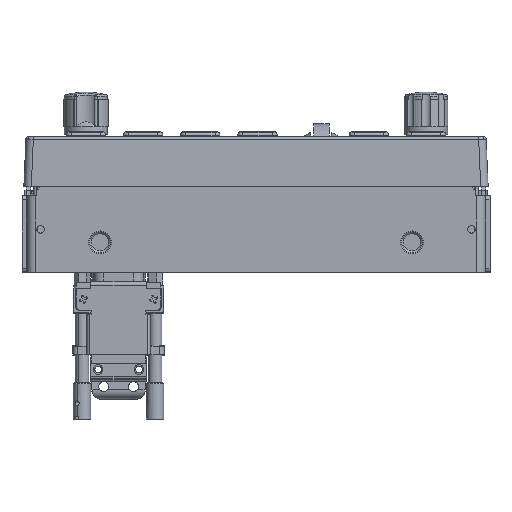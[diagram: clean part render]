
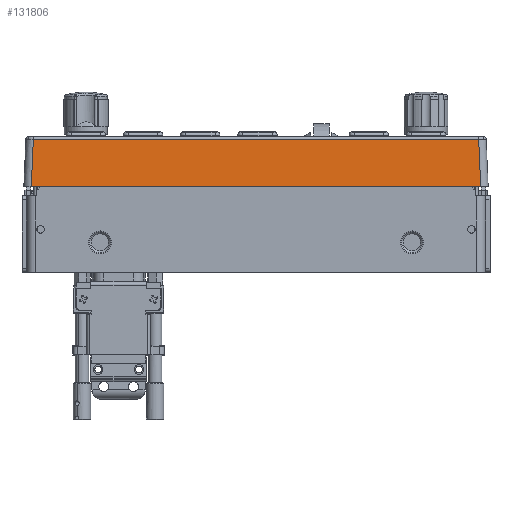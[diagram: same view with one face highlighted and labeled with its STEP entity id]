
A CAD part, front view. The second image highlights one B-rep face of the part: STEP entity #131806.
In plain terms, the highlighted planar face has unit normal (0, -0.999, 0.044).
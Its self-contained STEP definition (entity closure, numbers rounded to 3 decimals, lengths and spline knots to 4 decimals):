
#2020 = AXIS2_PLACEMENT_3D ( 'NONE', #98022, #30742, #109351 ) ;
#2488 = CARTESIAN_POINT ( 'NONE',  ( -2.9973, -1.0222, 0.6367 ) ) ;
#5749 = CARTESIAN_POINT ( 'NONE',  ( -2.9956, -1.0222, 0.6367 ) ) ;
#6958 = CARTESIAN_POINT ( 'NONE',  ( 3.0251, -1.05, 0. ) ) ;
#15777 = CARTESIAN_POINT ( 'NONE',  ( -3.0251, -1.05, 0. ) ) ;
#18837 = LINE ( 'NONE', #133360, #82143 ) ;
#22196 = VECTOR ( 'NONE', #139594, 39.3701 ) ;
#30742 = DIRECTION ( 'NONE',  ( 0., -0.999, 0.044 ) ) ;
#48248 = ORIENTED_EDGE ( 'NONE', *, *, #93555, .T. ) ;
#51829 = CARTESIAN_POINT ( 'NONE',  ( 2.9973, -1.0222, 0.6367 ) ) ;
#55601 = LINE ( 'NONE', #60319, #22196 ) ;
#60319 = CARTESIAN_POINT ( 'NONE',  ( 3.0253, -1.0502, -0.0043 ) ) ;
#62631 = VERTEX_POINT ( 'NONE', #6958 ) ;
#66185 = ORIENTED_EDGE ( 'NONE', *, *, #85369, .T. ) ;
#70904 = VERTEX_POINT ( 'NONE', #15777 ) ;
#72903 = EDGE_CURVE ( 'NONE', #62631, #127582, #55601, .T. ) ;
#82143 = VECTOR ( 'NONE', #99857, 39.3701 ) ;
#84349 = DIRECTION ( 'NONE',  ( -1., 0., 0. ) ) ;
#84368 = ORIENTED_EDGE ( 'NONE', *, *, #144980, .T. ) ;
#84926 = DIRECTION ( 'NONE',  ( -0.044, -0.044, -0.998 ) ) ;
#85369 = EDGE_CURVE ( 'NONE', #89885, #70904, #132547, .T. ) ;
#86748 = PLANE ( 'NONE',  #2020 ) ;
#89885 = VERTEX_POINT ( 'NONE', #2488 ) ;
#93555 = EDGE_CURVE ( 'NONE', #70904, #62631, #18837, .T. ) ;
#98022 = CARTESIAN_POINT ( 'NONE',  ( 3.125, -1.05, 0. ) ) ;
#99108 = LINE ( 'NONE', #5749, #125543 ) ;
#99857 = DIRECTION ( 'NONE',  ( 1., 0., 0. ) ) ;
#102616 = VECTOR ( 'NONE', #84926, 39.3701 ) ;
#105781 = ORIENTED_EDGE ( 'NONE', *, *, #72903, .T. ) ;
#109351 = DIRECTION ( 'NONE',  ( 0., -0.044, -0.999 ) ) ;
#118359 = CARTESIAN_POINT ( 'NONE',  ( -3.0134, -1.0383, 0.2675 ) ) ;
#123689 = EDGE_LOOP ( 'NONE', ( #105781, #84368, #66185, #48248 ) ) ;
#125543 = VECTOR ( 'NONE', #84349, 39.3701 ) ;
#127582 = VERTEX_POINT ( 'NONE', #51829 ) ;
#131806 = ADVANCED_FACE ( 'NONE', ( #144034 ), #86748, .T. ) ;
#132547 = LINE ( 'NONE', #118359, #102616 ) ;
#133360 = CARTESIAN_POINT ( 'NONE',  ( 3.125, -1.05, 0. ) ) ;
#139594 = DIRECTION ( 'NONE',  ( -0.044, 0.044, 0.998 ) ) ;
#144034 = FACE_OUTER_BOUND ( 'NONE', #123689, .T. ) ;
#144980 = EDGE_CURVE ( 'NONE', #127582, #89885, #99108, .T. ) ;
